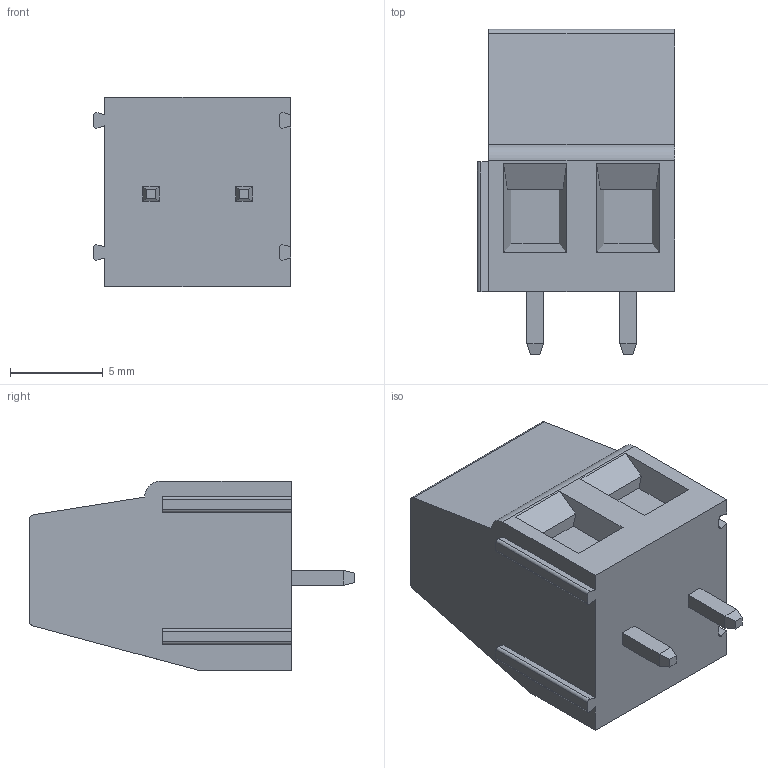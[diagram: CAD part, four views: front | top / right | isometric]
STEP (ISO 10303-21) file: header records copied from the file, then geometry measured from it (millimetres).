
FILE_DESCRIPTION (( 'STEP AP203' ), '1' );
FILE_NAME ('BR202.STEP', '2020-02-20T03:51:09', ( '' ), ( '' ), 'SwSTEP 2.0', 'SolidWorks 2019', '' );
FILE_SCHEMA (( 'CONFIG_CONTROL_DESIGN' ));
Length unit declared in the file: millimetre
Products named in the file (1): BR202
Bounding box: 10.6 x 17.5 x 10.2 mm (x, y, z)
Volume: 1152.5 mm3; surface area: 971.1 mm2
Topology: 1 solids, 3 shells, 175 faces, 453 edges, 290 vertices
Faces by surface type: plane 120, cylinder 31, cone 12, torus 8, bspline 4
Entity records: 5467 total; most frequent: CARTESIAN_POINT 1114, ORIENTED_EDGE 906, DIRECTION 858, EDGE_CURVE 453, LINE 334, VECTOR 334, VERTEX_POINT 290, AXIS2_PLACEMENT_3D 262
